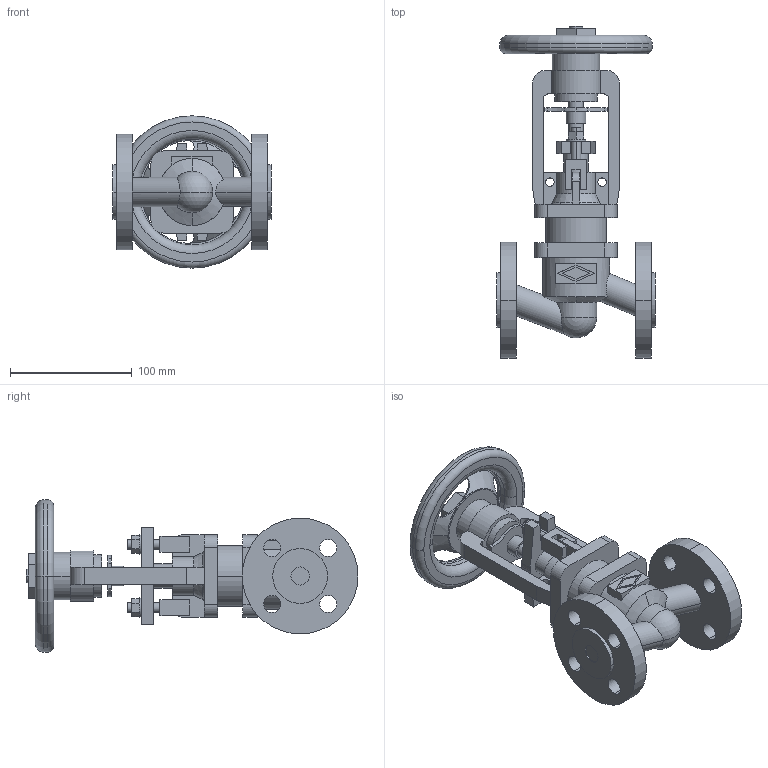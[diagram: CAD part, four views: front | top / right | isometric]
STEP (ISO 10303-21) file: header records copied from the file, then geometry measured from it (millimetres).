
FILE_DESCRIPTION(('OneSpaceDesigner STEP Export'),'2;1');
FILE_NAME('c000003724.stp','2009-06-15T12:24:20',(''),(''),'OneSpace Designer STEP processor for AP214 (Solid Model)','OneSpace Modeling 15.50B 03-Nov-2007 (C) CoCreate Software GmbH','');
FILE_SCHEMA(('AUTOMOTIVE_DESIGN { 1 0 10303 214 1 1 1 1 }'));
Length unit declared in the file: millimetre
Products named in the file (1): 1
Bounding box: 130 x 272.5 x 125 mm (x, y, z)
Volume: 717140.2 mm3; surface area: 141621.4 mm2
Topology: 1 solids, 1 shells, 282 faces, 752 edges, 494 vertices
Faces by surface type: plane 140, cylinder 113, torus 14, cone 13, sphere 2
Entity records: 11030 total; most frequent: CARTESIAN_POINT 2073, ORIENTED_EDGE 1500, DIRECTION 1246, EDGE_CURVE 750, VERTEX_POINT 494, VECTOR 418, LINE 418, AXIS2_PLACEMENT_3D 414
